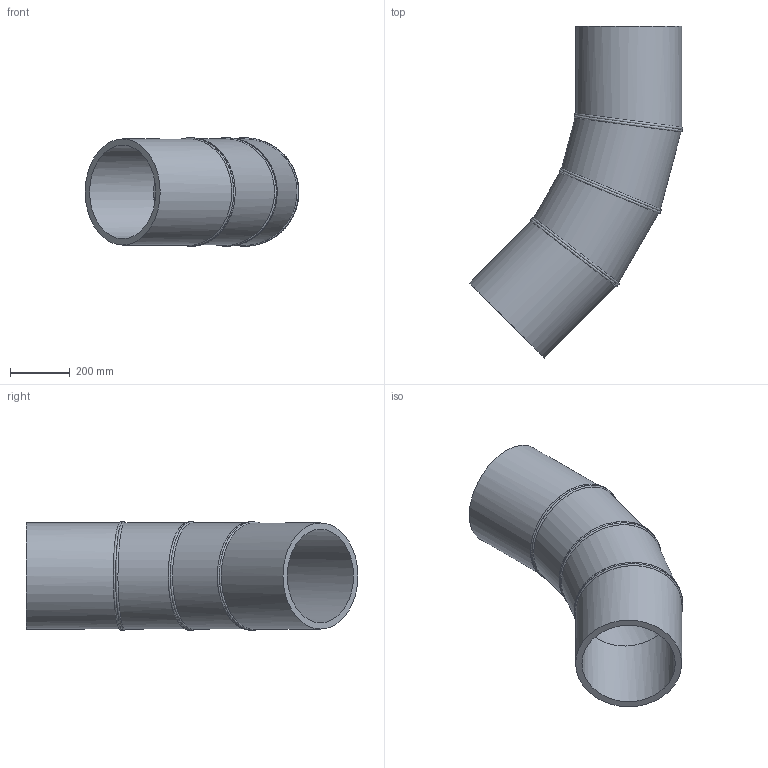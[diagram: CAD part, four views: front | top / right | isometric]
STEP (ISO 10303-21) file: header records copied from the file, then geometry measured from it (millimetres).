
FILE_DESCRIPTION(/* description */ ('Unknown'),/* implementation_level */ '2;1');
FILE_NAME(/* name */ 'Curva 45° a settore DE355 SDR26',/* time_stamp */ '2022-07-26T09:57:29+02:00',/* author */ ('Unknown'),/* organization */ ('Unknown'),/* preprocessor_version */ 'ST-DEVELOPER v18.102',/* originating_system */ 'Solid Edge',/* authorisation */ 'Unknown');
FILE_SCHEMA (('AUTOMOTIVE_DESIGN {1 0 10303 214 3 1 1}'));
Length unit declared in the file: millimetre
Products named in the file (3): Curva 45° a settore DE355 SDR26; Tubo x Gomito 45° DE355 SDR26 - 1; Tubo x Gomito 45° DE355 SDR26 - 2
Assembly tree (4 placements, depth 2):
  Curva 45° a settore DE355 SDR26
    Tubo x Gomito 45° DE355 SDR26 - 1  x2
    Tubo x Gomito 45° DE355 SDR26 - 2  x2
Bounding box: 715.3 x 1111.23 x 362.99 mm (x, y, z)
Volume: 24965628.8 mm3; surface area: 2560268.1 mm2
Topology: 4 solids, 4 shells, 34 faces, 74 edges, 48 vertices
Faces by surface type: cylinder 20, plane 8, bspline 6
Full cylindrical faces by diameter (mm): 312.8 x4, 355 x4
Entity records: 2349 total; most frequent: CARTESIAN_POINT 1947, DIRECTION 72, ORIENTED_EDGE 52, AXIS2_PLACEMENT_3D 36, EDGE_LOOP 28, FACE_BOUND 28, EDGE_CURVE 26, VERTEX_POINT 20
